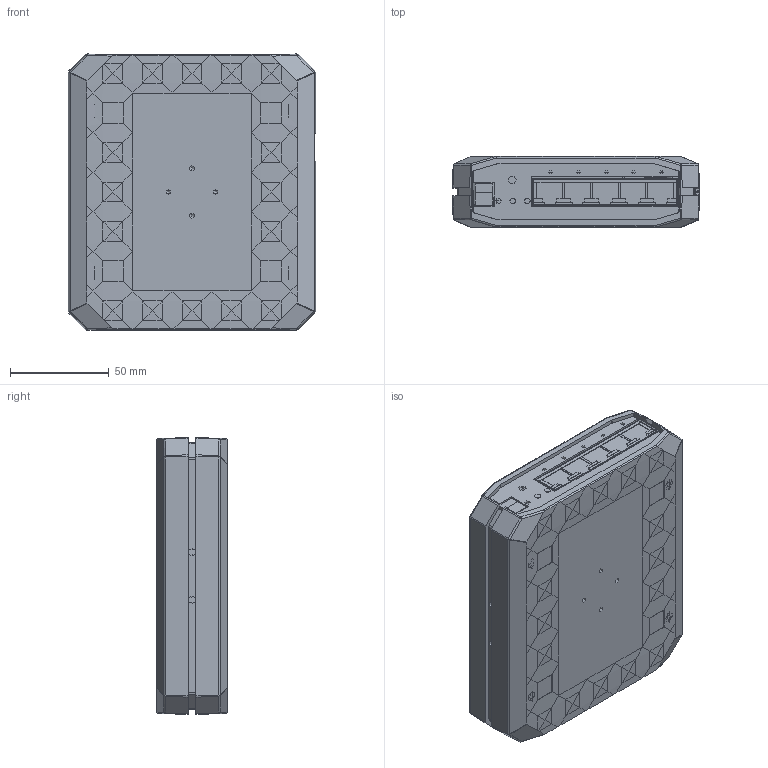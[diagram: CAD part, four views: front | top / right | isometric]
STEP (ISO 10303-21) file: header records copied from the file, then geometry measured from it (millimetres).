
FILE_DESCRIPTION (( 'STEP AP214' ), '1' );
FILE_NAME ('Tosibox_lock.STEP', '2016-05-25T12:45:02', ( '' ), ( '' ), 'SwSTEP 2.0', 'SolidWorks 2015', '' );
FILE_SCHEMA (( 'AUTOMOTIVE_DESIGN' ));
Length unit declared in the file: millimetre
Products named in the file (10): 101-03010_0; socket head cap screw_din_DIN 912 Zn M3 x 16; 1282.1200_0; 1304.1004_0; PCB_RB951G_2HnD; 101-02906_0; 101-02905_0; 101-02904_0; 101-02903_0; Tosibox_lock
Assembly tree (13 placements, depth 2):
  Tosibox_lock
    101-02903_0
    101-02904_0
    101-02905_0
    101-02906_0
    PCB_RB951G_2HnD
    1304.1004_0
    1282.1200_0  x2
    socket head cap screw_din_DIN 912 Zn M3 x 16  x4
    101-03010_0
Bounding box: 124.93 x 36 x 139.86 mm (x, y, z)
Topology: 16 solids, 521 shells, 6900 faces, 17406 edges, 11021 vertices
Faces by surface type: plane 2888, cylinder 2152, bspline 1129, sphere 476, torus 163, cone 92
Entity records: 295532 total; most frequent: CARTESIAN_POINT 112121, ORIENTED_EDGE 31523, DIRECTION 28555, EDGE_CURVE 17160, VERTEX_POINT 10914, AXIS2_PLACEMENT_3D 9523, LINE 9509, VECTOR 9509
